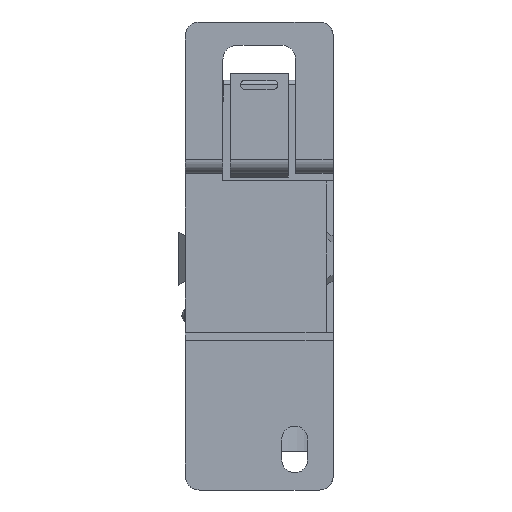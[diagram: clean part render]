
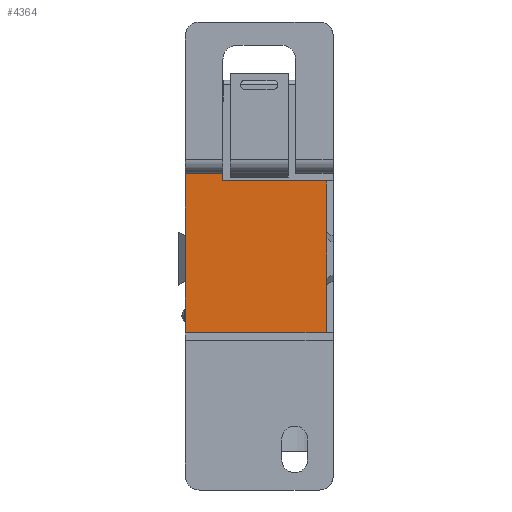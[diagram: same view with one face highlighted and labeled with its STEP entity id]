
A CAD part, front view. The second image highlights one B-rep face of the part: STEP entity #4364.
In plain terms, the highlighted planar face has unit normal (0, -1, 0).
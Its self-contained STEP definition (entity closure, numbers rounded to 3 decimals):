
#77 = EDGE_CURVE ( 'NONE', #6702, #6701, #1695, .T. ) ;
#79 = EDGE_CURVE ( 'NONE', #674, #672, #1701, .T. ) ;
#672 = VERTEX_POINT ( 'NONE', #2260 ) ;
#674 = VERTEX_POINT ( 'NONE', #2262 ) ;
#1133 = VECTOR ( 'NONE', #1703, 1000. ) ;
#1204 = VECTOR ( 'NONE', #1697, 1000. ) ;
#1695 = LINE ( 'NONE', #1696, #1204 ) ;
#1696 = CARTESIAN_POINT ( 'NONE',  ( -15.85, 6.3, 17.7 ) ) ;
#1697 = DIRECTION ( 'NONE',  ( 0., 0., -1. ) ) ;
#1701 = LINE ( 'NONE', #1702, #1133 ) ;
#1702 = CARTESIAN_POINT ( 'NONE',  ( -15.85, 6.3, 17.7 ) ) ;
#1703 = DIRECTION ( 'NONE',  ( 0., 0., -1. ) ) ;
#2260 = CARTESIAN_POINT ( 'NONE',  ( -15.85, 6.3, -17.3 ) ) ;
#2262 = CARTESIAN_POINT ( 'NONE',  ( -15.85, 6.3, -5.3 ) ) ;
#4013 = VECTOR ( 'NONE', #7825, 1000. ) ;
#4014 = VECTOR ( 'NONE', #7828, 1000. ) ;
#4015 = VECTOR ( 'NONE', #7831, 1000. ) ;
#4016 = VECTOR ( 'NONE', #7834, 1000. ) ;
#4017 = VECTOR ( 'NONE', #7837, 1000. ) ;
#4019 = VECTOR ( 'NONE', #7840, 1000. ) ;
#4020 = VECTOR ( 'NONE', #7843, 1000. ) ;
#4022 = VECTOR ( 'NONE', #7846, 1000. ) ;
#4364 = ADVANCED_FACE ( 'NONE', ( #8465 ), #7396, .T. ) ;
#4492 = EDGE_CURVE ( 'NONE', #6701, #674, #7823, .T. ) ;
#4493 = EDGE_CURVE ( 'NONE', #6781, #672, #7826, .T. ) ;
#4494 = EDGE_CURVE ( 'NONE', #6781, #6788, #7829, .T. ) ;
#4495 = EDGE_CURVE ( 'NONE', #6795, #6788, #7832, .T. ) ;
#4496 = EDGE_CURVE ( 'NONE', #6795, #6796, #7835, .T. ) ;
#4497 = EDGE_CURVE ( 'NONE', #6797, #6796, #7838, .T. ) ;
#4498 = EDGE_CURVE ( 'NONE', #6800, #6797, #7841, .T. ) ;
#4499 = EDGE_CURVE ( 'NONE', #6800, #6702, #7844, .T. ) ;
#4995 = ORIENTED_EDGE ( 'NONE', *, *, #79, .T. ) ;
#4996 = ORIENTED_EDGE ( 'NONE', *, *, #77, .T. ) ;
#4997 = ORIENTED_EDGE ( 'NONE', *, *, #4492, .T. ) ;
#4998 = ORIENTED_EDGE ( 'NONE', *, *, #4493, .F. ) ;
#4999 = ORIENTED_EDGE ( 'NONE', *, *, #4495, .F. ) ;
#5000 = ORIENTED_EDGE ( 'NONE', *, *, #4494, .T. ) ;
#5001 = ORIENTED_EDGE ( 'NONE', *, *, #4496, .T. ) ;
#5002 = ORIENTED_EDGE ( 'NONE', *, *, #4497, .F. ) ;
#5003 = ORIENTED_EDGE ( 'NONE', *, *, #4498, .F. ) ;
#5004 = ORIENTED_EDGE ( 'NONE', *, *, #4499, .T. ) ;
#6701 = VERTEX_POINT ( 'NONE', #10563 ) ;
#6702 = VERTEX_POINT ( 'NONE', #10564 ) ;
#6781 = VERTEX_POINT ( 'NONE', #10643 ) ;
#6788 = VERTEX_POINT ( 'NONE', #10650 ) ;
#6795 = VERTEX_POINT ( 'NONE', #10657 ) ;
#6796 = VERTEX_POINT ( 'NONE', #10658 ) ;
#6797 = VERTEX_POINT ( 'NONE', #10659 ) ;
#6800 = VERTEX_POINT ( 'NONE', #10662 ) ;
#6889 = EDGE_LOOP ( 'NONE', ( #4996, #4997, #4995, #4998, #5000, #4999, #5001, #5002, #5003, #5004 ) ) ;
#7396 = PLANE ( 'NONE',  #8470 ) ;
#7397 = CARTESIAN_POINT ( 'NONE',  ( 82.529, 6.3, 17.7 ) ) ;
#7398 = DIRECTION ( 'NONE',  ( 0., -1., 0. ) ) ;
#7399 = DIRECTION ( 'NONE',  ( 0., 0., -1. ) ) ;
#7823 = LINE ( 'NONE', #7824, #4013 ) ;
#7824 = CARTESIAN_POINT ( 'NONE',  ( -15.85, 6.3, -6.301 ) ) ;
#7825 = DIRECTION ( 'NONE',  ( 0., 0., -1. ) ) ;
#7826 = LINE ( 'NONE', #7827, #4014 ) ;
#7827 = CARTESIAN_POINT ( 'NONE',  ( 82.529, 6.3, -17.3 ) ) ;
#7828 = DIRECTION ( 'NONE',  ( -1., 0., 0. ) ) ;
#7829 = LINE ( 'NONE', #7830, #4015 ) ;
#7830 = CARTESIAN_POINT ( 'NONE',  ( 14.45, 6.3, 17.7 ) ) ;
#7831 = DIRECTION ( 'NONE',  ( 0., 0., 1. ) ) ;
#7832 = LINE ( 'NONE', #7833, #4016 ) ;
#7833 = CARTESIAN_POINT ( 'NONE',  ( 14.45, 6.3, -6.301 ) ) ;
#7834 = DIRECTION ( 'NONE',  ( 0., 0., -1. ) ) ;
#7835 = LINE ( 'NONE', #7836, #4017 ) ;
#7836 = CARTESIAN_POINT ( 'NONE',  ( 14.45, 6.3, 17.7 ) ) ;
#7837 = DIRECTION ( 'NONE',  ( 0., 0., 1. ) ) ;
#7838 = LINE ( 'NONE', #7839, #4019 ) ;
#7839 = CARTESIAN_POINT ( 'NONE',  ( 82.529, 6.3, 16.1 ) ) ;
#7840 = DIRECTION ( 'NONE',  ( 1., 0., 0. ) ) ;
#7841 = LINE ( 'NONE', #7842, #4020 ) ;
#7842 = CARTESIAN_POINT ( 'NONE',  ( -7.8, 6.3, 17.7 ) ) ;
#7843 = DIRECTION ( 'NONE',  ( 0., 0., -1. ) ) ;
#7844 = LINE ( 'NONE', #7845, #4022 ) ;
#7845 = CARTESIAN_POINT ( 'NONE',  ( 82.529, 6.3, 17.7 ) ) ;
#7846 = DIRECTION ( 'NONE',  ( -1., 0., 0. ) ) ;
#8465 = FACE_OUTER_BOUND ( 'NONE', #6889, .T. ) ;
#8470 = AXIS2_PLACEMENT_3D ( 'NONE', #7397, #7398, #7399 ) ;
#10563 = CARTESIAN_POINT ( 'NONE',  ( -15.85, 6.3, 4.2 ) ) ;
#10564 = CARTESIAN_POINT ( 'NONE',  ( -15.85, 6.3, 17.7 ) ) ;
#10643 = CARTESIAN_POINT ( 'NONE',  ( 14.45, 6.3, -17.3 ) ) ;
#10650 = CARTESIAN_POINT ( 'NONE',  ( 14.45, 6.3, -6.301 ) ) ;
#10657 = CARTESIAN_POINT ( 'NONE',  ( 14.45, 6.3, 5.201 ) ) ;
#10658 = CARTESIAN_POINT ( 'NONE',  ( 14.45, 6.3, 16.1 ) ) ;
#10659 = CARTESIAN_POINT ( 'NONE',  ( -7.8, 6.3, 16.1 ) ) ;
#10662 = CARTESIAN_POINT ( 'NONE',  ( -7.8, 6.3, 17.7 ) ) ;
